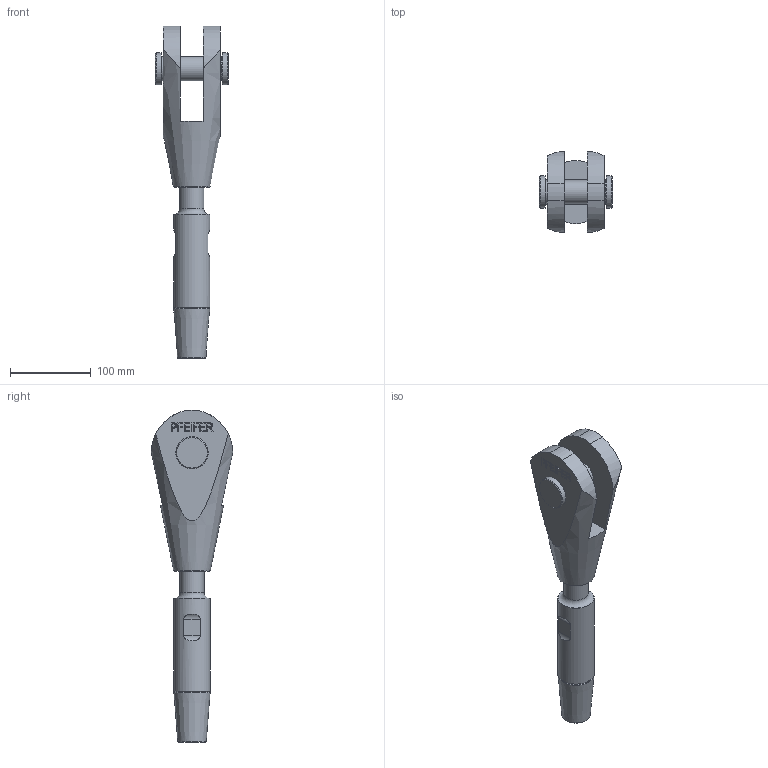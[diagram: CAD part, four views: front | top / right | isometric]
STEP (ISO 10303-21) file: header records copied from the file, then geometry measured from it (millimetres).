
FILE_DESCRIPTION(/* description */ (''),/* implementation_level */ '2;1');
FILE_NAME(/* name */ 'G:\Engineering\700 CAD\Internet-PX-1-step-igs-dxf\520-GAK-ADA-Arbeitsdateien\520-030-GAK-ADA.stp',/* time_stamp */ '2020-07-03T13:07:09+02:00',/* author */ ('schwarz'),/* organization */ (''),/* preprocessor_version */ 'ST-DEVELOPER v16.1',/* originating_system */ 'Autodesk Inventor 2016',/* authorisation */ '');
FILE_SCHEMA (('AUTOMOTIVE_DESIGN { 1 0 10303 214 3 1 1 }'));
Length unit declared in the file: centimetre
Products named in the file (1): 520-030-GAK-ADA-Kunde
Bounding box: 90.75 x 100.87 x 411.5 mm (x, y, z)
Volume: 910387.9 mm3; surface area: 116397.2 mm2
Topology: 2 solids, 3 shells, 198 faces, 509 edges, 338 vertices
Faces by surface type: plane 140, cylinder 22, bspline 21, cone 14, torus 1
Full cylindrical faces by diameter (mm): 8.376 x1, 10 x1, 11 x1, 19.22 x1, 30 x2, 31.5 x1, 33 x2, 40 x2, 45 x1
Entity records: 6160 total; most frequent: CARTESIAN_POINT 1412, ORIENTED_EDGE 944, DIRECTION 812, EDGE_CURVE 472, LINE 356, VECTOR 356, VERTEX_POINT 328, EDGE_LOOP 250
